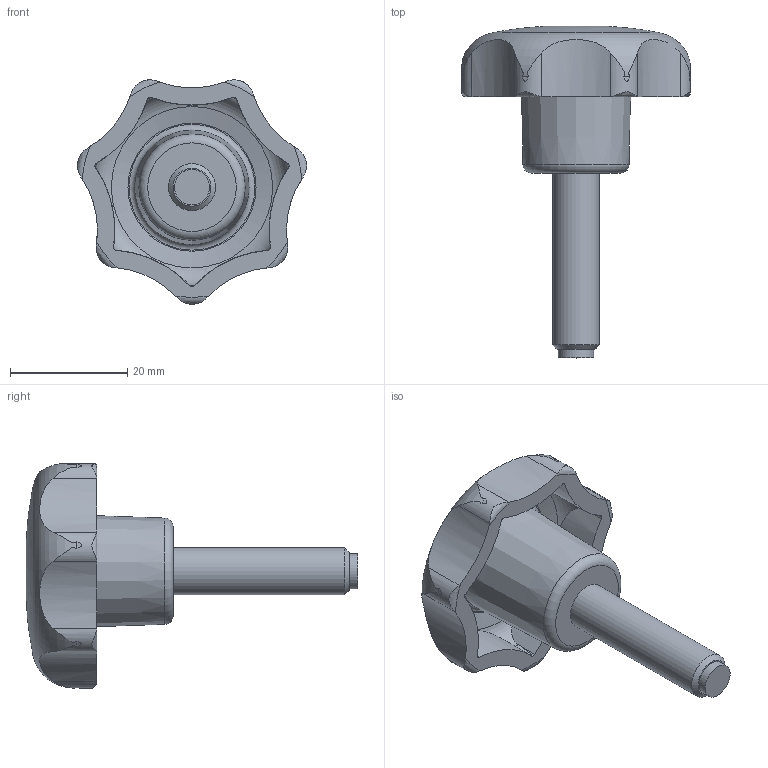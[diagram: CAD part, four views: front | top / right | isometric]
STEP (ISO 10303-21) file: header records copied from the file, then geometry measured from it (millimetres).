
FILE_DESCRIPTION( ( 'STEP AP203' ), '1' );
FILE_NAME( 'C:/Temp/Ganter_Step_05_03_2020/data/2_2/gn6336_10/Star knob GN 6336.10-40-M8-30-MS.stp', '2020-03-05T12:04:12', ( 'License CC BY-ND 4.0' ), ( 'CADENAS' ), ' ', 'PARTsolutions', ' ' );
FILE_SCHEMA( ( 'CONFIG_CONTROL_DESIGN' ) );
Length unit declared in the file: millimetre
Products named in the file (1): _Star knob GN 6336.10-40-M8-30-MS
Bounding box: 39.03 x 56.57 x 38.23 mm (x, y, z)
Volume: 13053.2 mm3; surface area: 5897.2 mm2
Topology: 1 solids, 1 shells, 64 faces, 188 edges, 128 vertices
Faces by surface type: cylinder 30, cone 17, torus 12, plane 4, bspline 1
Full cylindrical faces by diameter (mm): 6 x1, 8 x1
Entity records: 3177 total; most frequent: CARTESIAN_POINT 1616, ORIENTED_EDGE 346, DIRECTION 264, EDGE_CURVE 173, VERTEX_POINT 126, AXIS2_PLACEMENT_3D 118, B_SPLINE_CURVE_WITH_KNOTS 91, EDGE_LOOP 77
